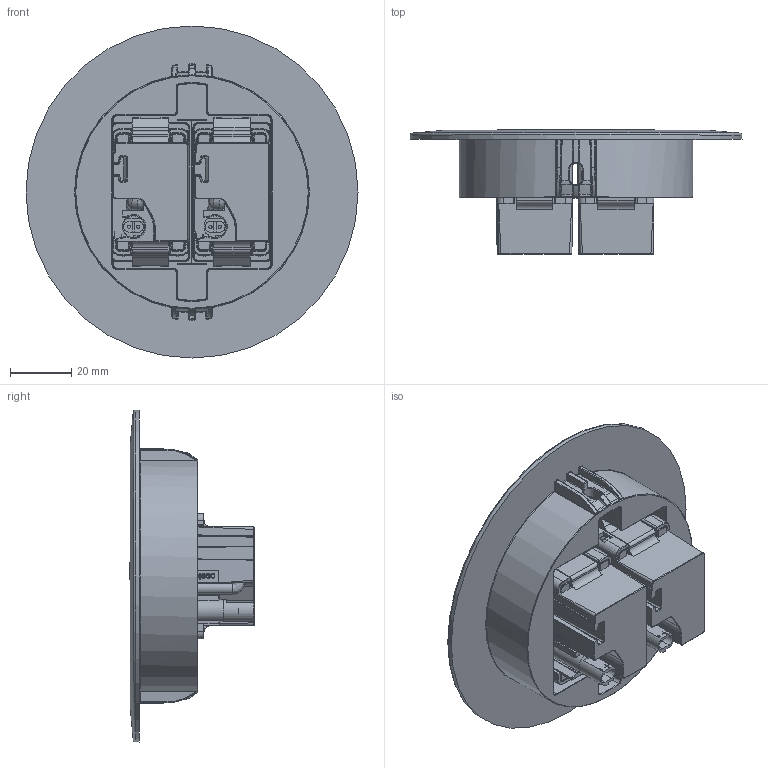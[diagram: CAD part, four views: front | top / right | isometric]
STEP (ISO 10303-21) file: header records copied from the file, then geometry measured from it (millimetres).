
FILE_DESCRIPTION(/* description */ (''),/* implementation_level */ '2;1');
FILE_NAME(/* name */ 'P:\Manufacturing\Autocad drawings\Inventor\blocks\Port - Block\Port with 2 x HP.stp',/* time_stamp */ '2021-12-13T12:43:15+00:00',/* author */ ('Kirsty.Gardner'),/* organization */ (''),/* preprocessor_version */ 'ST-DEVELOPER v15.6',/* originating_system */ 'Autodesk Inventor 2015',/* authorisation */ '');
FILE_SCHEMA (('CONFIG_CONTROL_DESIGN'));
Products named in the file (1): Part81
Bounding box: 108 x 40.4 x 108 mm (x, y, z)
Volume: 118160.4 mm3; surface area: 49289.4 mm2
Topology: 1 solids, 15 shells, 4201 faces, 10926 edges, 6756 vertices
Faces by surface type: plane 1623, bspline 1128, cylinder 1116, torus 165, cone 105, sphere 64
Full cylindrical faces by diameter (mm): 1.05 x4, 7 x2, 7.2 x2, 76 x1
Entity records: 172633 total; most frequent: CARTESIAN_POINT 76008, ORIENTED_EDGE 21624, DIRECTION 18160, EDGE_CURVE 10810, VERTEX_POINT 6733, AXIS2_PLACEMENT_3D 6109, LINE 5942, VECTOR 5942
